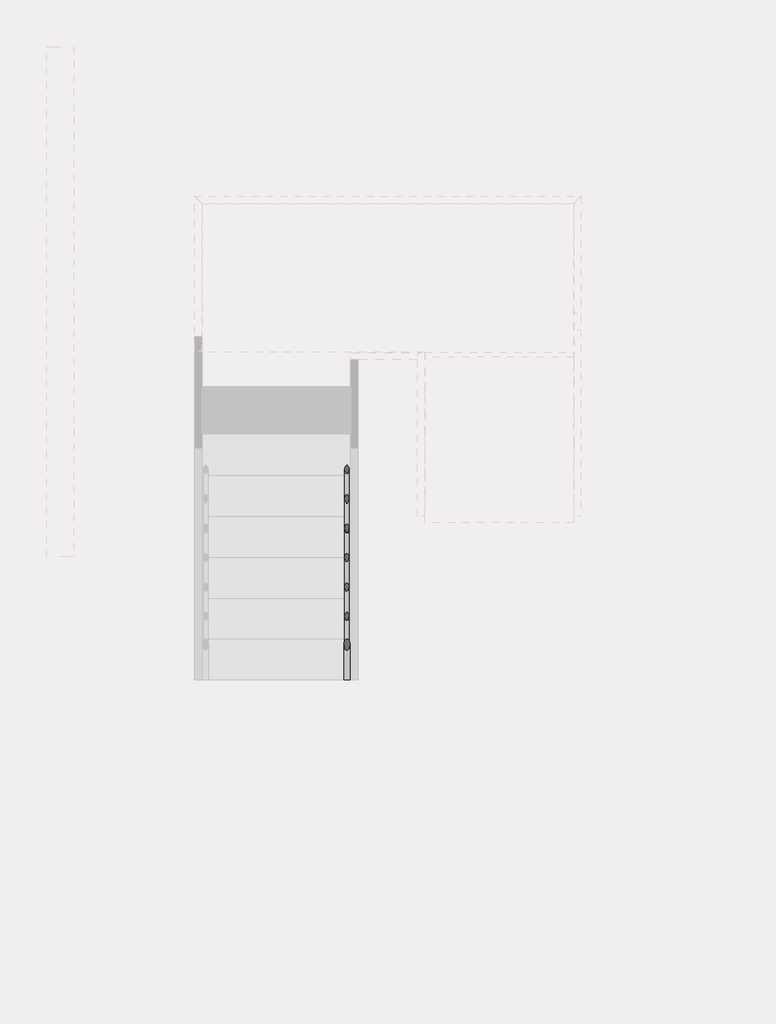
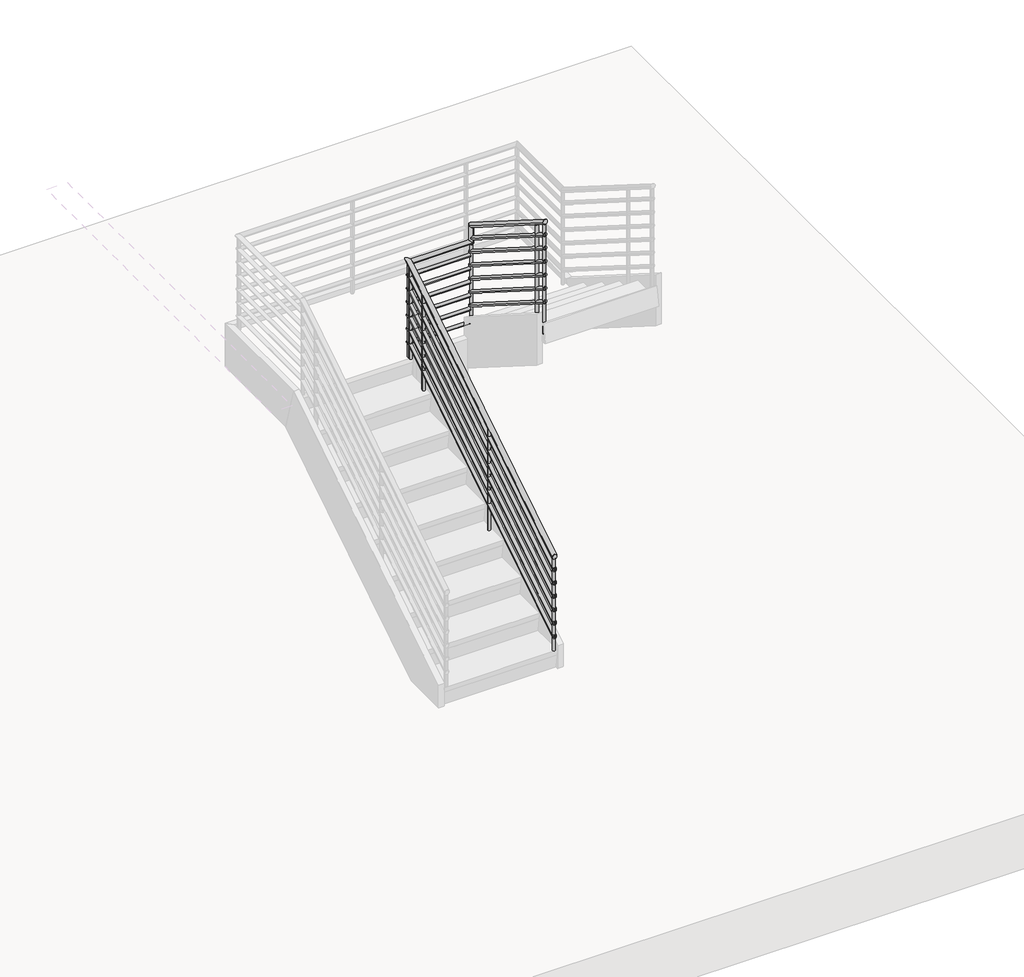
# One storey, part 2 of 6: 1 railing.
"""IFC4 building model written with IfcOpenShell, lengths in millimetres."""

from ifc_helpers import new_model, si_unit, point, frame, frame_2d, origin, place, context, project, spatial, circle_curve, ellipse_curve, trimmed, segment, composite_curve, outline, extrude, element, save
from ifc_brep_helpers import plane_surface, cylinder_surface, advanced_brep

model = new_model("IFC4")

# Units and contexts
model_context = context("Model", 3, world=origin())
ifc_project = project(units=[si_unit("LENGTHUNIT", "METRE", prefix="MILLI")], contexts=[model_context])

# Site, building, storey
site = spatial("IfcSite", under=ifc_project)
building = spatial("IfcBuilding", under=site)
storey = spatial("IfcBuildingStorey", under=building, Name="Уровень 1", Elevation=0.0)

# Railing
placement = place(None, origin())
element("IfcRailing", 1, ObjectType="Труба 900 мм", at=placement, inside=storey, context=model_context, shape_type="SolidModel", body=[
    advanced_brep(
    [(-7007.6328055, 6799.5507128, 1050.2491997), (-7047.6328055, 6799.5507128, 1050.2491997), (-7007.6328055, 9018.7372009, 2453.687295), (-7047.6328055, 9052.5440502, 2475.0671206)],
    [
        (0, 1, ellipse_curve(frame((-7027.6328055, 6799.5507128, 1050.2491997), z_axis=(0.0, -1.0, 0.0), x_axis=(0.0, 0.0, -1.0)), 23.6638438, 20.0)),
        (1, 0, ellipse_curve(frame((-7027.6328055, 6799.5507128, 1050.2491997), z_axis=(0.0, -1.0, 0.0), x_axis=(0.0, 0.0, -1.0)), 23.6638438, 20.0)),
        (2, 3, ellipse_curve(frame((-7027.6328055, 9035.6406256, 2464.3772078), z_axis=(0.7071067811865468, 0.5976263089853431, 0.3779454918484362), x_axis=(0.7071067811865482, -0.5976263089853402, -0.37794549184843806)), 28.2842712, 20.0)),
        (3, 2, ellipse_curve(frame((-7027.6328055, 9035.6406256, 2464.3772078), z_axis=(0.7071067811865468, 0.5976263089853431, 0.3779454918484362), x_axis=(0.7071067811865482, -0.5976263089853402, -0.37794549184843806)), 28.2842712, 20.0)),
        (0, 2),
        (3, 1),
    ],
    [
        plane_surface(frame((-7027.6328055, 6799.5507128, 1073.9130435), z_axis=(0.0, -1.0, 0.0), x_axis=(0.0, 0.0, 1.0))),
        plane_surface(frame((-7027.6328055, 9024.9507128, 2481.2806324), z_axis=(0.7071067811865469, 0.5976263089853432, 0.3779454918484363), x_axis=(0.7071067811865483, -0.5976263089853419, -0.37794549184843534))),
        cylinder_surface(frame((-7027.6328055, 6810.2406256, 1057.0096189), z_axis=(0.0, -0.845171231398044, -0.5344956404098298), x_axis=(-1.0, 0.0, 0.0)), 20.0),
    ],
    [
        (0, [[1, 2]]),
        (1, [[3, 4]]),
        (2, [[-1, 5, -4, 6]]),
        (2, [[-2, -6, -3, -5]]),
    ],
),
    advanced_brep(
    [(-7000.0394681, 9004.9507128, 2445.2173913), (-7033.8463173, 9044.9507128, 2445.2173913), (-6476.8328055, 9004.9507128, 2445.2173913), (-6476.8328055, 9044.9507128, 2445.2173913)],
    [
        (0, 1, ellipse_curve(frame((-7016.9428927, 9024.9507128, 2445.2173913), z_axis=(-0.7071067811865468, -0.5976263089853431, -0.3779454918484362), x_axis=(-0.7071067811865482, 0.5976263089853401, 0.3779454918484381)), 28.2842712, 20.0)),
        (1, 0, ellipse_curve(frame((-7016.9428927, 9024.9507128, 2445.2173913), z_axis=(-0.7071067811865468, -0.5976263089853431, -0.3779454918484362), x_axis=(-0.7071067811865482, 0.5976263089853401, 0.3779454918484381)), 28.2842712, 20.0)),
        (2, 3, ellipse_curve(frame((-6476.8328055, 9024.9507128, 2445.2173913), z_axis=(0.7071067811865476, 0.0, 0.7071067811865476), x_axis=(-0.7071067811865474, 0.0, 0.7071067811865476)), 28.2842712, 20.0)),
        (3, 2, ellipse_curve(frame((-6476.8328055, 9024.9507128, 2445.2173913), z_axis=(0.7071067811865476, 0.0, 0.7071067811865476), x_axis=(-0.7071067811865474, 0.0, 0.7071067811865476)), 28.2842712, 20.0)),
        (0, 2),
        (3, 1),
    ],
    [
        plane_surface(frame((-7027.6328055, 9024.9507128, 2465.2173913), z_axis=(-0.7071067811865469, -0.5976263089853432, -0.3779454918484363), x_axis=(0.7071067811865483, -0.5976263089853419, -0.37794549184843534))),
        plane_surface(frame((-6496.8328055, 9024.9507128, 2465.2173913), z_axis=(0.7071067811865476, 0.0, 0.7071067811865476), x_axis=(0.7071067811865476, 0.0, -0.7071067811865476))),
        cylinder_surface(frame((-7027.6328055, 9024.9507128, 2445.2173913), z_axis=(-1.0, 0.0, 0.0), x_axis=(0.0, 1.0, 0.0)), 20.0),
    ],
    [
        (0, [[1, 2]]),
        (1, [[3, 4]]),
        (2, [[-1, 5, -4, 6]]),
        (2, [[-2, -6, -3, -5]]),
    ],
),
    advanced_brep(
    [(-6476.8328055, 9004.9507128, 2445.2173913), (-6476.8328055, 9044.9507128, 2445.2173913), (-6476.8328055, 9004.9507128, 2588.3877274), (-6476.8328055, 9044.9507128, 2610.4189723)],
    [
        (0, 1, ellipse_curve(frame((-6476.8328055, 9024.9507128, 2445.2173913), z_axis=(-0.7071067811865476, 0.0, -0.7071067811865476), x_axis=(0.7071067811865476, 0.0, -0.7071067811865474)), 28.2842712, 20.0)),
        (1, 0, ellipse_curve(frame((-6476.8328055, 9024.9507128, 2445.2173913), z_axis=(-0.7071067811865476, 0.0, -0.7071067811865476), x_axis=(0.7071067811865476, 0.0, -0.7071067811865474)), 28.2842712, 20.0)),
        (2, 3, ellipse_curve(frame((-6476.8328055, 9024.9507128, 2599.4033499), z_axis=(0.0, -0.4824439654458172, 0.8759268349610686), x_axis=(0.0, -0.8759268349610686, -0.48244396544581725)), 22.8329573, 20.0)),
        (3, 2, ellipse_curve(frame((-6476.8328055, 9024.9507128, 2599.4033499), z_axis=(0.0, -0.4824439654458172, 0.8759268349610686), x_axis=(0.0, -0.8759268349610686, -0.48244396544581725)), 22.8329573, 20.0)),
        (0, 2),
        (3, 1),
    ],
    [
        plane_surface(frame((-6476.8328055, 9024.9507128, 2445.2173913), z_axis=(-0.7071067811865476, 0.0, -0.7071067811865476), x_axis=(0.7071067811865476, 0.0, -0.7071067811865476))),
        plane_surface(frame((-6476.8328055, 9024.9507128, 2599.4033499), z_axis=(0.0, -0.4824439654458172, 0.8759268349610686), x_axis=(1.0, 0.0, 0.0))),
        cylinder_surface(frame((-6476.8328055, 9024.9507128, 2445.2173913), z_axis=(0.0, 0.0, -1.0), x_axis=(0.0, 1.0, 0.0)), 20.0),
    ],
    [
        (0, [[1, 2]]),
        (1, [[3, 4]]),
        (2, [[-1, 5, -4, 6]]),
        (2, [[-2, -6, -3, -5]]),
    ],
),
    advanced_brep(
    [(-6496.8328055, 9024.9507128, 2599.4033499), (-6456.8328055, 9024.9507128, 2599.4033499), (-6496.8328055, 7899.5507128, 3311.1187649), (-6456.8328055, 7899.5507128, 3311.1187649)],
    [
        (0, 1, ellipse_curve(frame((-6476.8328055, 9024.9507128, 2599.4033499), z_axis=(0.0, 0.4824439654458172, -0.8759268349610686), x_axis=(0.0, 0.8759268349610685, 0.48244396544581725)), 22.8329573, 20.0)),
        (1, 0, ellipse_curve(frame((-6476.8328055, 9024.9507128, 2599.4033499), z_axis=(0.0, 0.4824439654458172, -0.8759268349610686), x_axis=(0.0, 0.8759268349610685, 0.48244396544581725)), 22.8329573, 20.0)),
        (2, 3, ellipse_curve(frame((-6476.8328055, 7899.5507128, 3311.1187649), z_axis=(0.0, -1.0, 0.0), x_axis=(0.0, 0.0, -1.0)), 23.6638438, 20.0)),
        (3, 2, ellipse_curve(frame((-6476.8328055, 7899.5507128, 3311.1187649), z_axis=(0.0, -1.0, 0.0), x_axis=(0.0, 0.0, -1.0)), 23.6638438, 20.0)),
        (0, 2),
        (3, 1),
    ],
    [
        plane_surface(frame((-6476.8328055, 9044.9507128, 2610.4189723), z_axis=(0.0, 0.4824439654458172, -0.8759268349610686), x_axis=(1.0, 0.0, 0.0))),
        plane_surface(frame((-6476.8328055, 7899.5507128, 3334.7826087), z_axis=(0.0, -1.0, 0.0), x_axis=(0.0, 0.0, -1.0))),
        cylinder_surface(frame((-6476.8328055, 9034.2608, 2593.5155477), z_axis=(0.0, 0.8451712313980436, -0.5344956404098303), x_axis=(1.0, 0.0, 0.0)), 20.0),
    ],
    [
        (0, [[1, 2]]),
        (1, [[3, 4]]),
        (2, [[-1, 5, -4, 6]]),
        (2, [[-2, -6, -3, -5]]),
    ],
),
    advanced_brep(
    [(-7042.6328055, 6799.5507128, 931.1651606), (-7012.6328055, 6799.5507128, 931.1651606), (-7042.6328055, 9003.8958025, 2325.2173913), (-7012.6328055, 9003.8958025, 2325.2173913), (-7042.6328055, 9039.9507128, 2325.2173913), (-7012.6328055, 9009.9507128, 2325.2173913), (-6491.8328055, 9039.9507128, 2325.2173913), (-6491.8328055, 9009.9507128, 2325.2173913)],
    [
        (0, 1, ellipse_curve(frame((-7027.6328055, 6799.5507128, 931.1651606), z_axis=(0.0, -1.0, 0.0), x_axis=(0.0, 0.0, -1.0)), 17.7478828, 15.0)),
        (1, 0, ellipse_curve(frame((-7027.6328055, 6799.5507128, 931.1651606), z_axis=(0.0, -1.0, 0.0), x_axis=(0.0, 0.0, -1.0)), 17.7478828, 15.0)),
        (0, 2),
        (2, 3, ellipse_curve(frame((-7027.6328055, 9003.8958025, 2325.2173913), z_axis=(0.0, -0.9605132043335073, -0.2782344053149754), x_axis=(0.0, 0.27823440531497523, -0.9605132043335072)), 15.6166515, 15.0)),
        (3, 1),
        (3, 2, ellipse_curve(frame((-7027.6328055, 9003.8958025, 2325.2173913), z_axis=(0.0, -0.9605132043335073, -0.2782344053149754), x_axis=(0.0, 0.27823440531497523, -0.9605132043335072)), 15.6166515, 15.0)),
        (2, 4),
        (4, 5, ellipse_curve(frame((-7027.6328055, 9024.9507128, 2325.2173913), z_axis=(-0.7071067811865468, -0.7071067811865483, 0.0), x_axis=(0.7071067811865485, -0.7071067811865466, 0.0)), 21.2132034, 15.0)),
        (5, 3),
        (5, 4, ellipse_curve(frame((-7027.6328055, 9024.9507128, 2325.2173913), z_axis=(-0.7071067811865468, -0.7071067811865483, 0.0), x_axis=(0.7071067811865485, -0.7071067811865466, 0.0)), 21.2132034, 15.0)),
        (6, 7, circle_curve(frame((-6491.8328055, 9024.9507128, 2325.2173913), z_axis=(1.0, 0.0, 0.0), x_axis=(0.0, -1.0, 0.0)), 15.0)),
        (7, 6, circle_curve(frame((-6491.8328055, 9024.9507128, 2325.2173913), z_axis=(1.0, 0.0, 0.0), x_axis=(0.0, -1.0, 0.0)), 15.0)),
        (4, 6),
        (7, 5),
    ],
    [
        plane_surface(frame((-7027.6328055, 6799.5507128, 948.9130435), z_axis=(0.0, -1.0, 0.0), x_axis=(0.0, 0.0, 1.0))),
        cylinder_surface(frame((-7027.6328055, 6807.5681474, 936.235475), z_axis=(0.0, -0.8451712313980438, -0.5344956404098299), x_axis=(1.0, 0.0, 0.0)), 15.0),
        cylinder_surface(frame((-7027.6328055, 8999.5507128, 2325.2173913), z_axis=(0.0, -1.0, 0.0), x_axis=(1.0, 0.0, 0.0)), 15.0),
        plane_surface(frame((-6491.8328055, 9024.9507128, 2340.2173913), z_axis=(1.0, 0.0, 0.0), x_axis=(0.0, 1.0, 0.0))),
        cylinder_surface(frame((-7027.6328055, 9024.9507128, 2325.2173913), z_axis=(-1.0, 0.0, 0.0), x_axis=(0.0, -1.0, 0.0)), 15.0),
    ],
    [
        (0, [[1, 2]]),
        (1, [[-1, 3, 4, 5]]),
        (1, [[-2, -5, 6, -3]]),
        (2, [[-4, 7, 8, 9]]),
        (2, [[-6, -9, 10, -7]]),
        (3, [[11, 12]]),
        (4, [[-8, 13, -12, 14]]),
        (4, [[-10, -14, -11, -13]]),
    ],
),
    advanced_brep(
    [(-6461.8328055, 9039.9507128, 2470.8331448), (-6491.8328055, 9039.9507128, 2470.8331448), (-6461.8328055, 7899.5507128, 3192.0347258), (-6491.8328055, 7899.5507128, 3192.0347258)],
    [
        (0, 1, ellipse_curve(frame((-6476.8328055, 9039.9507128, 2470.8331448), z_axis=(0.0, 1.0, 0.0), x_axis=(0.0, 0.0, -1.0)), 17.7478828, 15.0)),
        (1, 0, ellipse_curve(frame((-6476.8328055, 9039.9507128, 2470.8331448), z_axis=(0.0, 1.0, 0.0), x_axis=(0.0, 0.0, -1.0)), 17.7478828, 15.0)),
        (2, 3, ellipse_curve(frame((-6476.8328055, 7899.5507128, 3192.0347258), z_axis=(0.0, -1.0, 0.0), x_axis=(0.0, 0.0, -1.0)), 17.7478828, 15.0)),
        (3, 2, ellipse_curve(frame((-6476.8328055, 7899.5507128, 3192.0347258), z_axis=(0.0, -1.0, 0.0), x_axis=(0.0, 0.0, -1.0)), 17.7478828, 15.0)),
        (0, 2),
        (3, 1),
    ],
    [
        plane_surface(frame((-6476.8328055, 9039.9507128, 2488.5810277), z_axis=(0.0, 1.0, 0.0), x_axis=(0.0, 0.0, -1.0))),
        plane_surface(frame((-6476.8328055, 7899.5507128, 3209.7826087), z_axis=(0.0, -1.0, 0.0), x_axis=(0.0, 0.0, -1.0))),
        cylinder_surface(frame((-6476.8328055, 9031.9332782, 2475.9034592), z_axis=(0.0, 0.8451712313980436, -0.5344956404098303), x_axis=(-1.0, 0.0, 0.0)), 15.0),
    ],
    [
        (0, [[1, 2]]),
        (1, [[3, 4]]),
        (2, [[-1, 5, -4, 6]]),
        (2, [[-2, -6, -3, -5]]),
    ],
),
    advanced_brep(
    [(-7042.6328055, 6799.5507128, 806.1651606), (-7012.6328055, 6799.5507128, 806.1651606), (-7042.6328055, 9003.8958025, 2200.2173913), (-7012.6328055, 9003.8958025, 2200.2173913), (-7042.6328055, 9039.9507128, 2200.2173913), (-7012.6328055, 9009.9507128, 2200.2173913), (-6491.8328055, 9039.9507128, 2200.2173913), (-6491.8328055, 9009.9507128, 2200.2173913)],
    [
        (0, 1, ellipse_curve(frame((-7027.6328055, 6799.5507128, 806.1651606), z_axis=(0.0, -1.0, 0.0), x_axis=(0.0, 0.0, -1.0)), 17.7478828, 15.0)),
        (1, 0, ellipse_curve(frame((-7027.6328055, 6799.5507128, 806.1651606), z_axis=(0.0, -1.0, 0.0), x_axis=(0.0, 0.0, -1.0)), 17.7478828, 15.0)),
        (0, 2),
        (2, 3, ellipse_curve(frame((-7027.6328055, 9003.8958025, 2200.2173913), z_axis=(0.0, -0.9605132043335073, -0.2782344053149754), x_axis=(0.0, 0.27823440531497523, -0.9605132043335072)), 15.6166515, 15.0)),
        (3, 1),
        (3, 2, ellipse_curve(frame((-7027.6328055, 9003.8958025, 2200.2173913), z_axis=(0.0, -0.9605132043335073, -0.2782344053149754), x_axis=(0.0, 0.27823440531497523, -0.9605132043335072)), 15.6166515, 15.0)),
        (2, 4),
        (4, 5, ellipse_curve(frame((-7027.6328055, 9024.9507128, 2200.2173913), z_axis=(-0.7071067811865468, -0.7071067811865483, 0.0), x_axis=(0.7071067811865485, -0.7071067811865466, 0.0)), 21.2132034, 15.0)),
        (5, 3),
        (5, 4, ellipse_curve(frame((-7027.6328055, 9024.9507128, 2200.2173913), z_axis=(-0.7071067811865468, -0.7071067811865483, 0.0), x_axis=(0.7071067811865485, -0.7071067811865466, 0.0)), 21.2132034, 15.0)),
        (6, 7, circle_curve(frame((-6491.8328055, 9024.9507128, 2200.2173913), z_axis=(1.0, 0.0, 0.0), x_axis=(0.0, -1.0, 0.0)), 15.0)),
        (7, 6, circle_curve(frame((-6491.8328055, 9024.9507128, 2200.2173913), z_axis=(1.0, 0.0, 0.0), x_axis=(0.0, -1.0, 0.0)), 15.0)),
        (4, 6),
        (7, 5),
    ],
    [
        plane_surface(frame((-7027.6328055, 6799.5507128, 823.9130435), z_axis=(0.0, -1.0, 0.0), x_axis=(0.0, 0.0, 1.0))),
        cylinder_surface(frame((-7027.6328055, 6807.5681474, 811.235475), z_axis=(0.0, -0.8451712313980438, -0.5344956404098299), x_axis=(1.0, 0.0, 0.0)), 15.0),
        cylinder_surface(frame((-7027.6328055, 8999.5507128, 2200.2173913), z_axis=(0.0, -1.0, 0.0), x_axis=(1.0, 0.0, 0.0)), 15.0),
        plane_surface(frame((-6491.8328055, 9024.9507128, 2215.2173913), z_axis=(1.0, 0.0, 0.0), x_axis=(0.0, 1.0, 0.0))),
        cylinder_surface(frame((-7027.6328055, 9024.9507128, 2200.2173913), z_axis=(-1.0, 0.0, 0.0), x_axis=(0.0, -1.0, 0.0)), 15.0),
    ],
    [
        (0, [[1, 2]]),
        (1, [[-1, 3, 4, 5]]),
        (1, [[-2, -5, 6, -3]]),
        (2, [[-4, 7, 8, 9]]),
        (2, [[-6, -9, 10, -7]]),
        (3, [[11, 12]]),
        (4, [[-8, 13, -12, 14]]),
        (4, [[-10, -14, -11, -13]]),
    ],
),
    advanced_brep(
    [(-6461.8328055, 9039.9507128, 2345.8331448), (-6491.8328055, 9039.9507128, 2345.8331448), (-6461.8328055, 7899.5507128, 3067.0347258), (-6491.8328055, 7899.5507128, 3067.0347258)],
    [
        (0, 1, ellipse_curve(frame((-6476.8328055, 9039.9507128, 2345.8331448), z_axis=(0.0, 1.0, 0.0), x_axis=(0.0, 0.0, -1.0)), 17.7478828, 15.0)),
        (1, 0, ellipse_curve(frame((-6476.8328055, 9039.9507128, 2345.8331448), z_axis=(0.0, 1.0, 0.0), x_axis=(0.0, 0.0, -1.0)), 17.7478828, 15.0)),
        (2, 3, ellipse_curve(frame((-6476.8328055, 7899.5507128, 3067.0347258), z_axis=(0.0, -1.0, 0.0), x_axis=(0.0, 0.0, -1.0)), 17.7478828, 15.0)),
        (3, 2, ellipse_curve(frame((-6476.8328055, 7899.5507128, 3067.0347258), z_axis=(0.0, -1.0, 0.0), x_axis=(0.0, 0.0, -1.0)), 17.7478828, 15.0)),
        (0, 2),
        (3, 1),
    ],
    [
        plane_surface(frame((-6476.8328055, 9039.9507128, 2363.5810277), z_axis=(0.0, 1.0, 0.0), x_axis=(0.0, 0.0, -1.0))),
        plane_surface(frame((-6476.8328055, 7899.5507128, 3084.7826087), z_axis=(0.0, -1.0, 0.0), x_axis=(0.0, 0.0, -1.0))),
        cylinder_surface(frame((-6476.8328055, 9031.9332782, 2350.9034592), z_axis=(0.0, 0.8451712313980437, -0.5344956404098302), x_axis=(-1.0, 0.0, 0.0)), 15.0),
    ],
    [
        (0, [[1, 2]]),
        (1, [[3, 4]]),
        (2, [[-1, 5, -4, 6]]),
        (2, [[-2, -6, -3, -5]]),
    ],
),
    advanced_brep(
    [(-7042.6328055, 6799.5507128, 681.1651606), (-7012.6328055, 6799.5507128, 681.1651606), (-7042.6328055, 9003.8958025, 2075.2173913), (-7012.6328055, 9003.8958025, 2075.2173913), (-7042.6328055, 9039.9507128, 2075.2173913), (-7012.6328055, 9009.9507128, 2075.2173913), (-6491.8328055, 9039.9507128, 2075.2173913), (-6491.8328055, 9009.9507128, 2075.2173913)],
    [
        (0, 1, ellipse_curve(frame((-7027.6328055, 6799.5507128, 681.1651606), z_axis=(0.0, -1.0, 0.0), x_axis=(0.0, 0.0, -1.0)), 17.7478828, 15.0)),
        (1, 0, ellipse_curve(frame((-7027.6328055, 6799.5507128, 681.1651606), z_axis=(0.0, -1.0, 0.0), x_axis=(0.0, 0.0, -1.0)), 17.7478828, 15.0)),
        (0, 2),
        (2, 3, ellipse_curve(frame((-7027.6328055, 9003.8958025, 2075.2173913), z_axis=(0.0, -0.9605132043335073, -0.2782344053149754), x_axis=(0.0, 0.27823440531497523, -0.9605132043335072)), 15.6166515, 15.0)),
        (3, 1),
        (3, 2, ellipse_curve(frame((-7027.6328055, 9003.8958025, 2075.2173913), z_axis=(0.0, -0.9605132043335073, -0.2782344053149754), x_axis=(0.0, 0.27823440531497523, -0.9605132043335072)), 15.6166515, 15.0)),
        (2, 4),
        (4, 5, ellipse_curve(frame((-7027.6328055, 9024.9507128, 2075.2173913), z_axis=(-0.7071067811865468, -0.7071067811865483, 0.0), x_axis=(0.7071067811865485, -0.7071067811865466, 0.0)), 21.2132034, 15.0)),
        (5, 3),
        (5, 4, ellipse_curve(frame((-7027.6328055, 9024.9507128, 2075.2173913), z_axis=(-0.7071067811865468, -0.7071067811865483, 0.0), x_axis=(0.7071067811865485, -0.7071067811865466, 0.0)), 21.2132034, 15.0)),
        (6, 7, circle_curve(frame((-6491.8328055, 9024.9507128, 2075.2173913), z_axis=(1.0, 0.0, 0.0), x_axis=(0.0, -1.0, 0.0)), 15.0)),
        (7, 6, circle_curve(frame((-6491.8328055, 9024.9507128, 2075.2173913), z_axis=(1.0, 0.0, 0.0), x_axis=(0.0, -1.0, 0.0)), 15.0)),
        (4, 6),
        (7, 5),
    ],
    [
        plane_surface(frame((-7027.6328055, 6799.5507128, 698.9130435), z_axis=(0.0, -1.0, 0.0), x_axis=(0.0, 0.0, 1.0))),
        cylinder_surface(frame((-7027.6328055, 6807.5681474, 686.235475), z_axis=(0.0, -0.8451712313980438, -0.5344956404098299), x_axis=(1.0, 0.0, 0.0)), 15.0),
        cylinder_surface(frame((-7027.6328055, 8999.5507128, 2075.2173913), z_axis=(0.0, -1.0, 0.0), x_axis=(1.0, 0.0, 0.0)), 15.0),
        plane_surface(frame((-6491.8328055, 9024.9507128, 2090.2173913), z_axis=(1.0, 0.0, 0.0), x_axis=(0.0, 1.0, 0.0))),
        cylinder_surface(frame((-7027.6328055, 9024.9507128, 2075.2173913), z_axis=(-1.0, 0.0, 0.0), x_axis=(0.0, -1.0, 0.0)), 15.0),
    ],
    [
        (0, [[1, 2]]),
        (1, [[-1, 3, 4, 5]]),
        (1, [[-2, -5, 6, -3]]),
        (2, [[-4, 7, 8, 9]]),
        (2, [[-6, -9, 10, -7]]),
        (3, [[11, 12]]),
        (4, [[-8, 13, -12, 14]]),
        (4, [[-10, -14, -11, -13]]),
    ],
),
    advanced_brep(
    [(-6461.8328055, 9039.9507128, 2220.8331448), (-6491.8328055, 9039.9507128, 2220.8331448), (-6461.8328055, 7899.5507128, 2942.0347258), (-6491.8328055, 7899.5507128, 2942.0347258)],
    [
        (0, 1, ellipse_curve(frame((-6476.8328055, 9039.9507128, 2220.8331448), z_axis=(0.0, 1.0, 0.0), x_axis=(0.0, 0.0, -1.0)), 17.7478828, 15.0)),
        (1, 0, ellipse_curve(frame((-6476.8328055, 9039.9507128, 2220.8331448), z_axis=(0.0, 1.0, 0.0), x_axis=(0.0, 0.0, -1.0)), 17.7478828, 15.0)),
        (2, 3, ellipse_curve(frame((-6476.8328055, 7899.5507128, 2942.0347258), z_axis=(0.0, -1.0, 0.0), x_axis=(0.0, 0.0, -1.0)), 17.7478828, 15.0)),
        (3, 2, ellipse_curve(frame((-6476.8328055, 7899.5507128, 2942.0347258), z_axis=(0.0, -1.0, 0.0), x_axis=(0.0, 0.0, -1.0)), 17.7478828, 15.0)),
        (0, 2),
        (3, 1),
    ],
    [
        plane_surface(frame((-6476.8328055, 9039.9507128, 2238.5810277), z_axis=(0.0, 1.0, 0.0), x_axis=(0.0, 0.0, -1.0))),
        plane_surface(frame((-6476.8328055, 7899.5507128, 2959.7826087), z_axis=(0.0, -1.0, 0.0), x_axis=(0.0, 0.0, -1.0))),
        cylinder_surface(frame((-6476.8328055, 9031.9332782, 2225.9034592), z_axis=(0.0, 0.8451712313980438, -0.5344956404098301), x_axis=(-1.0, 0.0, 0.0)), 15.0),
    ],
    [
        (0, [[1, 2]]),
        (1, [[3, 4]]),
        (2, [[-1, 5, -4, 6]]),
        (2, [[-2, -6, -3, -5]]),
    ],
),
    advanced_brep(
    [(-7042.6328055, 6799.5507128, 556.1651606), (-7012.6328055, 6799.5507128, 556.1651606), (-7042.6328055, 9003.8958025, 1950.2173913), (-7012.6328055, 9003.8958025, 1950.2173913), (-7042.6328055, 9039.9507128, 1950.2173913), (-7012.6328055, 9009.9507128, 1950.2173913), (-6491.8328055, 9039.9507128, 1950.2173913), (-6491.8328055, 9009.9507128, 1950.2173913)],
    [
        (0, 1, ellipse_curve(frame((-7027.6328055, 6799.5507128, 556.1651606), z_axis=(0.0, -1.0, 0.0), x_axis=(0.0, 0.0, -1.0)), 17.7478828, 15.0)),
        (1, 0, ellipse_curve(frame((-7027.6328055, 6799.5507128, 556.1651606), z_axis=(0.0, -1.0, 0.0), x_axis=(0.0, 0.0, -1.0)), 17.7478828, 15.0)),
        (0, 2),
        (2, 3, ellipse_curve(frame((-7027.6328055, 9003.8958025, 1950.2173913), z_axis=(0.0, -0.9605132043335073, -0.2782344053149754), x_axis=(0.0, 0.27823440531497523, -0.9605132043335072)), 15.6166515, 15.0)),
        (3, 1),
        (3, 2, ellipse_curve(frame((-7027.6328055, 9003.8958025, 1950.2173913), z_axis=(0.0, -0.9605132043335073, -0.2782344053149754), x_axis=(0.0, 0.27823440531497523, -0.9605132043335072)), 15.6166515, 15.0)),
        (2, 4),
        (4, 5, ellipse_curve(frame((-7027.6328055, 9024.9507128, 1950.2173913), z_axis=(-0.7071067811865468, -0.7071067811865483, 0.0), x_axis=(0.7071067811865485, -0.7071067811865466, 0.0)), 21.2132034, 15.0)),
        (5, 3),
        (5, 4, ellipse_curve(frame((-7027.6328055, 9024.9507128, 1950.2173913), z_axis=(-0.7071067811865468, -0.7071067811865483, 0.0), x_axis=(0.7071067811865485, -0.7071067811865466, 0.0)), 21.2132034, 15.0)),
        (6, 7, circle_curve(frame((-6491.8328055, 9024.9507128, 1950.2173913), z_axis=(1.0, 0.0, 0.0), x_axis=(0.0, -1.0, 0.0)), 15.0)),
        (7, 6, circle_curve(frame((-6491.8328055, 9024.9507128, 1950.2173913), z_axis=(1.0, 0.0, 0.0), x_axis=(0.0, -1.0, 0.0)), 15.0)),
        (4, 6),
        (7, 5),
    ],
    [
        plane_surface(frame((-7027.6328055, 6799.5507128, 573.9130435), z_axis=(0.0, -1.0, 0.0), x_axis=(0.0, 0.0, 1.0))),
        cylinder_surface(frame((-7027.6328055, 6807.5681474, 561.235475), z_axis=(0.0, -0.8451712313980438, -0.5344956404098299), x_axis=(1.0, 0.0, 0.0)), 15.0),
        cylinder_surface(frame((-7027.6328055, 8999.5507128, 1950.2173913), z_axis=(0.0, -1.0, 0.0), x_axis=(1.0, 0.0, 0.0)), 15.0),
        plane_surface(frame((-6491.8328055, 9024.9507128, 1965.2173913), z_axis=(1.0, 0.0, 0.0), x_axis=(0.0, 1.0, 0.0))),
        cylinder_surface(frame((-7027.6328055, 9024.9507128, 1950.2173913), z_axis=(-1.0, 0.0, 0.0), x_axis=(0.0, -1.0, 0.0)), 15.0),
    ],
    [
        (0, [[1, 2]]),
        (1, [[-1, 3, 4, 5]]),
        (1, [[-2, -5, 6, -3]]),
        (2, [[-4, 7, 8, 9]]),
        (2, [[-6, -9, 10, -7]]),
        (3, [[11, 12]]),
        (4, [[-8, 13, -12, 14]]),
        (4, [[-10, -14, -11, -13]]),
    ],
),
    advanced_brep(
    [(-6461.8328055, 9039.9507128, 2095.8331448), (-6491.8328055, 9039.9507128, 2095.8331448), (-6461.8328055, 7899.5507128, 2817.0347258), (-6491.8328055, 7899.5507128, 2817.0347258)],
    [
        (0, 1, ellipse_curve(frame((-6476.8328055, 9039.9507128, 2095.8331448), z_axis=(0.0, 1.0, 0.0), x_axis=(0.0, 0.0, -1.0)), 17.7478828, 15.0)),
        (1, 0, ellipse_curve(frame((-6476.8328055, 9039.9507128, 2095.8331448), z_axis=(0.0, 1.0, 0.0), x_axis=(0.0, 0.0, -1.0)), 17.7478828, 15.0)),
        (2, 3, ellipse_curve(frame((-6476.8328055, 7899.5507128, 2817.0347258), z_axis=(0.0, -1.0, 0.0), x_axis=(0.0, 0.0, -1.0)), 17.7478828, 15.0)),
        (3, 2, ellipse_curve(frame((-6476.8328055, 7899.5507128, 2817.0347258), z_axis=(0.0, -1.0, 0.0), x_axis=(0.0, 0.0, -1.0)), 17.7478828, 15.0)),
        (0, 2),
        (3, 1),
    ],
    [
        plane_surface(frame((-6476.8328055, 9039.9507128, 2113.5810277), z_axis=(0.0, 1.0, 0.0), x_axis=(0.0, 0.0, -1.0))),
        plane_surface(frame((-6476.8328055, 7899.5507128, 2834.7826087), z_axis=(0.0, -1.0, 0.0), x_axis=(0.0, 0.0, -1.0))),
        cylinder_surface(frame((-6476.8328055, 9031.9332782, 2100.9034592), z_axis=(0.0, 0.8451712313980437, -0.5344956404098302), x_axis=(-1.0, 0.0, 0.0)), 15.0),
    ],
    [
        (0, [[1, 2]]),
        (1, [[3, 4]]),
        (2, [[-1, 5, -4, 6]]),
        (2, [[-2, -6, -3, -5]]),
    ],
),
    advanced_brep(
    [(-7042.6328055, 6799.5507128, 431.1651606), (-7012.6328055, 6799.5507128, 431.1651606), (-7042.6328055, 9003.8958025, 1825.2173913), (-7012.6328055, 9003.8958025, 1825.2173913), (-7042.6328055, 9039.9507128, 1825.2173913), (-7012.6328055, 9009.9507128, 1825.2173913), (-6491.8328055, 9039.9507128, 1825.2173913), (-6491.8328055, 9009.9507128, 1825.2173913)],
    [
        (0, 1, ellipse_curve(frame((-7027.6328055, 6799.5507128, 431.1651606), z_axis=(0.0, -1.0, 0.0), x_axis=(0.0, 0.0, -1.0)), 17.7478828, 15.0)),
        (1, 0, ellipse_curve(frame((-7027.6328055, 6799.5507128, 431.1651606), z_axis=(0.0, -1.0, 0.0), x_axis=(0.0, 0.0, -1.0)), 17.7478828, 15.0)),
        (0, 2),
        (2, 3, ellipse_curve(frame((-7027.6328055, 9003.8958025, 1825.2173913), z_axis=(0.0, -0.9605132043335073, -0.2782344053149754), x_axis=(0.0, 0.27823440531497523, -0.9605132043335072)), 15.6166515, 15.0)),
        (3, 1),
        (3, 2, ellipse_curve(frame((-7027.6328055, 9003.8958025, 1825.2173913), z_axis=(0.0, -0.9605132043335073, -0.2782344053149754), x_axis=(0.0, 0.27823440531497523, -0.9605132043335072)), 15.6166515, 15.0)),
        (2, 4),
        (4, 5, ellipse_curve(frame((-7027.6328055, 9024.9507128, 1825.2173913), z_axis=(-0.7071067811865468, -0.7071067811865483, 0.0), x_axis=(0.7071067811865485, -0.7071067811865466, 0.0)), 21.2132034, 15.0)),
        (5, 3),
        (5, 4, ellipse_curve(frame((-7027.6328055, 9024.9507128, 1825.2173913), z_axis=(-0.7071067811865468, -0.7071067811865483, 0.0), x_axis=(0.7071067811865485, -0.7071067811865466, 0.0)), 21.2132034, 15.0)),
        (6, 7, circle_curve(frame((-6491.8328055, 9024.9507128, 1825.2173913), z_axis=(1.0, 0.0, 0.0), x_axis=(0.0, -1.0, 0.0)), 15.0)),
        (7, 6, circle_curve(frame((-6491.8328055, 9024.9507128, 1825.2173913), z_axis=(1.0, 0.0, 0.0), x_axis=(0.0, -1.0, 0.0)), 15.0)),
        (4, 6),
        (7, 5),
    ],
    [
        plane_surface(frame((-7027.6328055, 6799.5507128, 448.9130435), z_axis=(0.0, -1.0, 0.0), x_axis=(0.0, 0.0, 1.0))),
        cylinder_surface(frame((-7027.6328055, 6807.5681474, 436.235475), z_axis=(0.0, -0.8451712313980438, -0.5344956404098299), x_axis=(1.0, 0.0, 0.0)), 15.0),
        cylinder_surface(frame((-7027.6328055, 8999.5507128, 1825.2173913), z_axis=(0.0, -1.0, 0.0), x_axis=(1.0, 0.0, 0.0)), 15.0),
        plane_surface(frame((-6491.8328055, 9024.9507128, 1840.2173913), z_axis=(1.0, 0.0, 0.0), x_axis=(0.0, 1.0, 0.0))),
        cylinder_surface(frame((-7027.6328055, 9024.9507128, 1825.2173913), z_axis=(-1.0, 0.0, 0.0), x_axis=(0.0, -1.0, 0.0)), 15.0),
    ],
    [
        (0, [[1, 2]]),
        (1, [[-1, 3, 4, 5]]),
        (1, [[-2, -5, 6, -3]]),
        (2, [[-4, 7, 8, 9]]),
        (2, [[-6, -9, 10, -7]]),
        (3, [[11, 12]]),
        (4, [[-8, 13, -12, 14]]),
        (4, [[-10, -14, -11, -13]]),
    ],
),
    advanced_brep(
    [(-6461.8328055, 9039.9507128, 1970.8331448), (-6491.8328055, 9039.9507128, 1970.8331448), (-6461.8328055, 7899.5507128, 2692.0347258), (-6491.8328055, 7899.5507128, 2692.0347258)],
    [
        (0, 1, ellipse_curve(frame((-6476.8328055, 9039.9507128, 1970.8331448), z_axis=(0.0, 1.0, 0.0), x_axis=(0.0, 0.0, -1.0)), 17.7478828, 15.0)),
        (1, 0, ellipse_curve(frame((-6476.8328055, 9039.9507128, 1970.8331448), z_axis=(0.0, 1.0, 0.0), x_axis=(0.0, 0.0, -1.0)), 17.7478828, 15.0)),
        (2, 3, ellipse_curve(frame((-6476.8328055, 7899.5507128, 2692.0347258), z_axis=(0.0, -1.0, 0.0), x_axis=(0.0, 0.0, -1.0)), 17.7478828, 15.0)),
        (3, 2, ellipse_curve(frame((-6476.8328055, 7899.5507128, 2692.0347258), z_axis=(0.0, -1.0, 0.0), x_axis=(0.0, 0.0, -1.0)), 17.7478828, 15.0)),
        (0, 2),
        (3, 1),
    ],
    [
        plane_surface(frame((-6476.8328055, 9039.9507128, 1988.5810277), z_axis=(0.0, 1.0, 0.0), x_axis=(0.0, 0.0, -1.0))),
        plane_surface(frame((-6476.8328055, 7899.5507128, 2709.7826087), z_axis=(0.0, -1.0, 0.0), x_axis=(0.0, 0.0, -1.0))),
        cylinder_surface(frame((-6476.8328055, 9031.9332782, 1975.9034592), z_axis=(0.0, 0.8451712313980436, -0.5344956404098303), x_axis=(-1.0, 0.0, 0.0)), 15.0),
    ],
    [
        (0, [[1, 2]]),
        (1, [[3, 4]]),
        (2, [[-1, 5, -4, 6]]),
        (2, [[-2, -6, -3, -5]]),
    ],
),
    advanced_brep(
    [(-7042.6328055, 6799.5507128, 306.1651606), (-7012.6328055, 6799.5507128, 306.1651606), (-7042.6328055, 9003.8958025, 1700.2173913), (-7012.6328055, 9003.8958025, 1700.2173913), (-7042.6328055, 9039.9507128, 1700.2173913), (-7012.6328055, 9009.9507128, 1700.2173913), (-6491.8328055, 9039.9507128, 1700.2173913), (-6491.8328055, 9009.9507128, 1700.2173913)],
    [
        (0, 1, ellipse_curve(frame((-7027.6328055, 6799.5507128, 306.1651606), z_axis=(0.0, -1.0, 0.0), x_axis=(0.0, 0.0, -1.0)), 17.7478828, 15.0)),
        (1, 0, ellipse_curve(frame((-7027.6328055, 6799.5507128, 306.1651606), z_axis=(0.0, -1.0, 0.0), x_axis=(0.0, 0.0, -1.0)), 17.7478828, 15.0)),
        (0, 2),
        (2, 3, ellipse_curve(frame((-7027.6328055, 9003.8958025, 1700.2173913), z_axis=(0.0, -0.9605132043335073, -0.2782344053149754), x_axis=(0.0, 0.27823440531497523, -0.9605132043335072)), 15.6166515, 15.0)),
        (3, 1),
        (3, 2, ellipse_curve(frame((-7027.6328055, 9003.8958025, 1700.2173913), z_axis=(0.0, -0.9605132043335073, -0.2782344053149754), x_axis=(0.0, 0.27823440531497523, -0.9605132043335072)), 15.6166515, 15.0)),
        (2, 4),
        (4, 5, ellipse_curve(frame((-7027.6328055, 9024.9507128, 1700.2173913), z_axis=(-0.7071067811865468, -0.7071067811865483, 0.0), x_axis=(0.7071067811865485, -0.7071067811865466, 0.0)), 21.2132034, 15.0)),
        (5, 3),
        (5, 4, ellipse_curve(frame((-7027.6328055, 9024.9507128, 1700.2173913), z_axis=(-0.7071067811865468, -0.7071067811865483, 0.0), x_axis=(0.7071067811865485, -0.7071067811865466, 0.0)), 21.2132034, 15.0)),
        (6, 7, circle_curve(frame((-6491.8328055, 9024.9507128, 1700.2173913), z_axis=(1.0, 0.0, 0.0), x_axis=(0.0, -1.0, 0.0)), 15.0)),
        (7, 6, circle_curve(frame((-6491.8328055, 9024.9507128, 1700.2173913), z_axis=(1.0, 0.0, 0.0), x_axis=(0.0, -1.0, 0.0)), 15.0)),
        (4, 6),
        (7, 5),
    ],
    [
        plane_surface(frame((-7027.6328055, 6799.5507128, 323.9130435), z_axis=(0.0, -1.0, 0.0), x_axis=(0.0, 0.0, 1.0))),
        cylinder_surface(frame((-7027.6328055, 6807.5681474, 311.235475), z_axis=(0.0, -0.8451712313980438, -0.5344956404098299), x_axis=(1.0, 0.0, 0.0)), 15.0),
        cylinder_surface(frame((-7027.6328055, 8999.5507128, 1700.2173913), z_axis=(0.0, -1.0, 0.0), x_axis=(1.0, 0.0, 0.0)), 15.0),
        plane_surface(frame((-6491.8328055, 9024.9507128, 1715.2173913), z_axis=(1.0, 0.0, 0.0), x_axis=(0.0, 1.0, 0.0))),
        cylinder_surface(frame((-7027.6328055, 9024.9507128, 1700.2173913), z_axis=(-1.0, 0.0, 0.0), x_axis=(0.0, -1.0, 0.0)), 15.0),
    ],
    [
        (0, [[1, 2]]),
        (1, [[-1, 3, 4, 5]]),
        (1, [[-2, -5, 6, -3]]),
        (2, [[-4, 7, 8, 9]]),
        (2, [[-6, -9, 10, -7]]),
        (3, [[11, 12]]),
        (4, [[-8, 13, -12, 14]]),
        (4, [[-10, -14, -11, -13]]),
    ],
),
    advanced_brep(
    [(-6461.8328055, 9039.9507128, 1845.8331448), (-6491.8328055, 9039.9507128, 1845.8331448), (-6461.8328055, 7899.5507128, 2567.0347258), (-6491.8328055, 7899.5507128, 2567.0347258)],
    [
        (0, 1, ellipse_curve(frame((-6476.8328055, 9039.9507128, 1845.8331448), z_axis=(0.0, 1.0, 0.0), x_axis=(0.0, 0.0, -1.0)), 17.7478828, 15.0)),
        (1, 0, ellipse_curve(frame((-6476.8328055, 9039.9507128, 1845.8331448), z_axis=(0.0, 1.0, 0.0), x_axis=(0.0, 0.0, -1.0)), 17.7478828, 15.0)),
        (2, 3, ellipse_curve(frame((-6476.8328055, 7899.5507128, 2567.0347258), z_axis=(0.0, -1.0, 0.0), x_axis=(0.0, 0.0, -1.0)), 17.7478828, 15.0)),
        (3, 2, ellipse_curve(frame((-6476.8328055, 7899.5507128, 2567.0347258), z_axis=(0.0, -1.0, 0.0), x_axis=(0.0, 0.0, -1.0)), 17.7478828, 15.0)),
        (0, 2),
        (3, 1),
    ],
    [
        plane_surface(frame((-6476.8328055, 9039.9507128, 1863.5810277), z_axis=(0.0, 1.0, 0.0), x_axis=(0.0, 0.0, -1.0))),
        plane_surface(frame((-6476.8328055, 7899.5507128, 2584.7826087), z_axis=(0.0, -1.0, 0.0), x_axis=(0.0, 0.0, -1.0))),
        cylinder_surface(frame((-6476.8328055, 9031.9332782, 1850.9034592), z_axis=(0.0, 0.8451712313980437, -0.5344956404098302), x_axis=(-1.0, 0.0, 0.0)), 15.0),
    ],
    [
        (0, [[1, 2]]),
        (1, [[3, 4]]),
        (2, [[-1, 5, -4, 6]]),
        (2, [[-2, -6, -3, -5]]),
    ],
),
    advanced_brep(
    [(-6489.3328055, 8024.9507128, 3208.1505733), (-6489.3328055, 8024.9507128, 2260.8695652), (-6464.3328055, 8024.9507128, 2260.8695652), (-6464.3328055, 8024.9507128, 3208.1505733)],
    [
        (0, 1),
        (1, 2, circle_curve(frame((-6476.8328055, 8024.9507128, 2260.8695652), z_axis=(0.0, 0.0, 1.0), x_axis=(1.0, 0.0, 0.0)), 12.5)),
        (2, 3),
        (3, 0, ellipse_curve(frame((-6476.8328055, 8024.9507128, 3208.1505733), z_axis=(0.0, -0.5344956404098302, -0.8451712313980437), x_axis=(0.0, -0.8451712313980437, 0.53449564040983)), 14.7899024, 12.5)),
        (0, 3, ellipse_curve(frame((-6476.8328055, 8024.9507128, 3208.1505733), z_axis=(0.0, -0.5344956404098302, -0.8451712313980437), x_axis=(0.0, -0.8451712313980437, 0.53449564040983)), 14.7899024, 12.5)),
        (2, 1, circle_curve(frame((-6476.8328055, 8024.9507128, 2260.8695652), z_axis=(0.0, 0.0, 1.0), x_axis=(1.0, 0.0, 0.0)), 12.5)),
    ],
    [
        cylinder_surface(frame((-6476.8328055, 8024.9507128, 2160.8695652), z_axis=(0.0, 0.0, 1.0), x_axis=(1.0, 0.0, 0.0)), 12.5),
        plane_surface(frame((-6451.8328055, 7999.9507128, 3223.96085), z_axis=(0.0, 0.5344956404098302, 0.8451712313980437), x_axis=(-1.0, 0.0, 0.0))),
        plane_surface(frame((-6451.8328055, 8049.9507128, 2260.8695652), z_axis=(0.0, 0.0, -1.0), x_axis=(-1.0, 0.0, 0.0))),
    ],
    [
        (0, [[1, 2, 3, 4]]),
        (0, [[-1, 5, -3, 6]]),
        (1, [[-4, -5]]),
        (2, [[-2, -6]]),
    ],
),
    advanced_brep(
    [(-7015.1328055, 8799.5507128, 2291.4074903), (-7015.1328055, 8799.5507128, 1391.3043478), (-7040.1328055, 8799.5507128, 1391.3043478), (-7040.1328055, 8799.5507128, 2291.4074903)],
    [
        (0, 1),
        (1, 2, circle_curve(frame((-7027.6328055, 8799.5507128, 1391.3043478), z_axis=(0.0, 0.0, 1.0), x_axis=(-1.0, 0.0, 0.0)), 12.5)),
        (2, 3),
        (3, 0, ellipse_curve(frame((-7027.6328055, 8799.5507128, 2291.4074903), z_axis=(0.0, 0.5344956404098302, -0.8451712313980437), x_axis=(0.0, 0.8451712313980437, 0.53449564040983)), 14.7899024, 12.5)),
        (0, 3, ellipse_curve(frame((-7027.6328055, 8799.5507128, 2291.4074903), z_axis=(0.0, 0.5344956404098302, -0.8451712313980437), x_axis=(0.0, 0.8451712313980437, 0.53449564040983)), 14.7899024, 12.5)),
        (2, 1, circle_curve(frame((-7027.6328055, 8799.5507128, 1391.3043478), z_axis=(0.0, 0.0, 1.0), x_axis=(-1.0, 0.0, 0.0)), 12.5)),
    ],
    [
        cylinder_surface(frame((-7027.6328055, 8799.5507128, 1291.3043478), z_axis=(0.0, 0.0, 1.0), x_axis=(-1.0, 0.0, 0.0)), 12.5),
        plane_surface(frame((-7052.6328055, 8824.5507128, 2307.217767), z_axis=(0.0, -0.5344956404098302, 0.8451712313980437), x_axis=(1.0, 0.0, 0.0))),
        plane_surface(frame((-7052.6328055, 8774.5507128, 1391.3043478), z_axis=(0.0, 0.0, -1.0), x_axis=(1.0, 0.0, 0.0))),
    ],
    [
        (0, [[1, 2, 3, 4]]),
        (0, [[-1, 5, -3, 6]]),
        (1, [[-4, -5]]),
        (2, [[-2, -6]]),
    ],
),
    advanced_brep(
    [(-7015.1328055, 7799.5507128, 1658.9964231), (-7015.1328055, 7799.5507128, 695.6521739), (-7040.1328055, 7799.5507128, 695.6521739), (-7040.1328055, 7799.5507128, 1658.9964231)],
    [
        (0, 1),
        (1, 2, circle_curve(frame((-7027.6328055, 7799.5507128, 695.6521739), z_axis=(0.0, 0.0, 1.0), x_axis=(-1.0, 0.0, 0.0)), 12.5)),
        (2, 3),
        (3, 0, ellipse_curve(frame((-7027.6328055, 7799.5507128, 1658.9964231), z_axis=(0.0, 0.5344956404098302, -0.8451712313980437), x_axis=(0.0, 0.8451712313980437, 0.53449564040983)), 14.7899024, 12.5)),
        (0, 3, ellipse_curve(frame((-7027.6328055, 7799.5507128, 1658.9964231), z_axis=(0.0, 0.5344956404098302, -0.8451712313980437), x_axis=(0.0, 0.8451712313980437, 0.53449564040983)), 14.7899024, 12.5)),
        (2, 1, circle_curve(frame((-7027.6328055, 7799.5507128, 695.6521739), z_axis=(0.0, 0.0, 1.0), x_axis=(-1.0, 0.0, 0.0)), 12.5)),
    ],
    [
        cylinder_surface(frame((-7027.6328055, 7799.5507128, 595.6521739), z_axis=(0.0, 0.0, 1.0), x_axis=(-1.0, 0.0, 0.0)), 12.5),
        plane_surface(frame((-7052.6328055, 7824.5507128, 1674.8066998), z_axis=(0.0, -0.5344956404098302, 0.8451712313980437), x_axis=(1.0, 0.0, 0.0))),
        plane_surface(frame((-7052.6328055, 7774.5507128, 695.6521739), z_axis=(0.0, 0.0, -1.0), x_axis=(1.0, 0.0, 0.0))),
    ],
    [
        (0, [[1, 2, 3, 4]]),
        (0, [[-1, 5, -3, 6]]),
        (1, [[-4, -5]]),
        (2, [[-2, -6]]),
    ],
),
    extrude(outline(composite_curve([segment(trimmed(circle_curve(frame_2d((-6476.8328055, 9024.9507128)), 12.5), [point((-6464.3328055, 9024.9507128))], [point((-6489.3328055, 9024.9507128))], False, "CARTESIAN"), True, "CONTINUOUS"), segment(trimmed(circle_curve(frame_2d((-6476.8328055, 9024.9507128)), 12.5), [point((-6489.3328055, 9024.9507128))], [point((-6464.3328055, 9024.9507128))], False, "CARTESIAN"), True, "CONTINUOUS")], self_intersect=False)), frame((0.0, 0.0, 1565.2173913), z_axis=(0.0, 0.0, 1.0), x_axis=(1.0, 0.0, 0.0)), (0.0, 0.0, 1.0), 860.0),
    advanced_brep(
    [(-7015.1328055, 9024.9507128, 2433.9529448), (-7015.1328055, 9024.9507128, 1565.2173913), (-7040.1328055, 9024.9507128, 1565.2173913), (-7040.1328055, 9024.9507128, 2433.9529448)],
    [
        (0, 1),
        (1, 2, circle_curve(frame((-7027.6328055, 9024.9507128, 1565.2173913), z_axis=(0.0, 0.0, 1.0), x_axis=(-1.0, 0.0, 0.0)), 12.5)),
        (2, 3),
        (3, 0, ellipse_curve(frame((-7027.6328055, 9024.9507128, 2433.9529448), z_axis=(0.0, 0.5344956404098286, -0.8451712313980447), x_axis=(0.0, 0.8451712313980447, 0.5344956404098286)), 14.7899024, 12.5)),
        (0, 3, ellipse_curve(frame((-7027.6328055, 9024.9507128, 2433.9529448), z_axis=(0.0, 0.5344956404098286, -0.8451712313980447), x_axis=(0.0, 0.8451712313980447, 0.5344956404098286)), 14.7899024, 12.5)),
        (2, 1, circle_curve(frame((-7027.6328055, 9024.9507128, 1565.2173913), z_axis=(0.0, 0.0, 1.0), x_axis=(-1.0, 0.0, 0.0)), 12.5)),
    ],
    [
        cylinder_surface(frame((-7027.6328055, 9024.9507128, 1465.2173913), z_axis=(0.0, 0.0, 1.0), x_axis=(-1.0, 0.0, 0.0)), 12.5),
        plane_surface(frame((-7052.6328055, 9049.9507128, 2449.7632215), z_axis=(0.0, -0.5344956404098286, 0.8451712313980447), x_axis=(1.0, 0.0, 0.0))),
        plane_surface(frame((-7052.6328055, 8999.9507128, 1565.2173913), z_axis=(0.0, 0.0, -1.0), x_axis=(1.0, 0.0, 0.0))),
    ],
    [
        (0, [[1, 2, 3, 4]]),
        (0, [[-1, 5, -3, 6]]),
        (1, [[-4, -5]]),
        (2, [[-2, -6]]),
    ],
),
    advanced_brep(
    [(-7015.1328055, 8999.5507128, 2417.8897037), (-7015.1328055, 8999.5507128, 1565.2173913), (-7040.1328055, 8999.5507128, 1565.2173913), (-7040.1328055, 8999.5507128, 2417.8897037)],
    [
        (0, 1),
        (1, 2, circle_curve(frame((-7027.6328055, 8999.5507128, 1565.2173913), z_axis=(0.0, 0.0, 1.0), x_axis=(-1.0, 0.0, 0.0)), 12.5)),
        (2, 3),
        (3, 0, ellipse_curve(frame((-7027.6328055, 8999.5507128, 2417.8897037), z_axis=(0.0, 0.5344956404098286, -0.8451712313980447), x_axis=(0.0, 0.8451712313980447, 0.5344956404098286)), 14.7899024, 12.5)),
        (0, 3, ellipse_curve(frame((-7027.6328055, 8999.5507128, 2417.8897037), z_axis=(0.0, 0.5344956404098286, -0.8451712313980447), x_axis=(0.0, 0.8451712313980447, 0.5344956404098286)), 14.7899024, 12.5)),
        (2, 1, circle_curve(frame((-7027.6328055, 8999.5507128, 1565.2173913), z_axis=(0.0, 0.0, 1.0), x_axis=(-1.0, 0.0, 0.0)), 12.5)),
    ],
    [
        cylinder_surface(frame((-7027.6328055, 8999.5507128, 1465.2173913), z_axis=(0.0, 0.0, 1.0), x_axis=(-1.0, 0.0, 0.0)), 12.5),
        plane_surface(frame((-7052.6328055, 9024.5507128, 2433.6999804), z_axis=(0.0, -0.5344956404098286, 0.8451712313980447), x_axis=(1.0, 0.0, 0.0))),
        plane_surface(frame((-7052.6328055, 8974.5507128, 1565.2173913), z_axis=(0.0, 0.0, -1.0), x_axis=(1.0, 0.0, 0.0))),
    ],
    [
        (0, [[1, 2, 3, 4]]),
        (0, [[-1, 5, -3, 6]]),
        (1, [[-4, -5]]),
        (2, [[-2, -6]]),
    ],
),
    advanced_brep(
    [(-6489.3328055, 7912.0507128, 3279.5497828), (-6489.3328055, 7912.0507128, 2260.8695652), (-6464.3328055, 7912.0507128, 2260.8695652), (-6464.3328055, 7912.0507128, 3279.5497828)],
    [
        (0, 1),
        (1, 2, circle_curve(frame((-6476.8328055, 7912.0507128, 2260.8695652), z_axis=(0.0, 0.0, 1.0), x_axis=(1.0, 0.0, 0.0)), 12.5)),
        (2, 3),
        (3, 0, ellipse_curve(frame((-6476.8328055, 7912.0507128, 3279.5497828), z_axis=(0.0, -0.5344956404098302, -0.8451712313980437), x_axis=(0.0, -0.8451712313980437, 0.53449564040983)), 14.7899024, 12.5)),
        (0, 3, ellipse_curve(frame((-6476.8328055, 7912.0507128, 3279.5497828), z_axis=(0.0, -0.5344956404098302, -0.8451712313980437), x_axis=(0.0, -0.8451712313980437, 0.53449564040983)), 14.7899024, 12.5)),
        (2, 1, circle_curve(frame((-6476.8328055, 7912.0507128, 2260.8695652), z_axis=(0.0, 0.0, 1.0), x_axis=(1.0, 0.0, 0.0)), 12.5)),
    ],
    [
        cylinder_surface(frame((-6476.8328055, 7912.0507128, 2160.8695652), z_axis=(0.0, 0.0, 1.0), x_axis=(1.0, 0.0, 0.0)), 12.5),
        plane_surface(frame((-6451.8328055, 7887.0507128, 3295.3600594), z_axis=(0.0, 0.5344956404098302, 0.8451712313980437), x_axis=(-1.0, 0.0, 0.0))),
        plane_surface(frame((-6451.8328055, 7937.0507128, 2260.8695652), z_axis=(0.0, 0.0, -1.0), x_axis=(-1.0, 0.0, 0.0))),
    ],
    [
        (0, [[1, 2, 3, 4]]),
        (0, [[-1, 5, -3, 6]]),
        (1, [[-4, -5]]),
        (2, [[-2, -6]]),
    ],
),
    advanced_brep(
    [(-7015.1328055, 6812.0507128, 1034.4904942), (-7015.1328055, 6812.0507128, 173.9130435), (-7040.1328055, 6812.0507128, 173.9130435), (-7040.1328055, 6812.0507128, 1034.4904942)],
    [
        (0, 1),
        (1, 2, circle_curve(frame((-7027.6328055, 6812.0507128, 173.9130435), z_axis=(0.0, 0.0, 1.0), x_axis=(-1.0, 0.0, 0.0)), 12.5)),
        (2, 3),
        (3, 0, ellipse_curve(frame((-7027.6328055, 6812.0507128, 1034.4904942), z_axis=(0.0, 0.5344956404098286, -0.8451712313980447), x_axis=(0.0, 0.8451712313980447, 0.5344956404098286)), 14.7899024, 12.5)),
        (0, 3, ellipse_curve(frame((-7027.6328055, 6812.0507128, 1034.4904942), z_axis=(0.0, 0.5344956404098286, -0.8451712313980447), x_axis=(0.0, 0.8451712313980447, 0.5344956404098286)), 14.7899024, 12.5)),
        (2, 1, circle_curve(frame((-7027.6328055, 6812.0507128, 173.9130435), z_axis=(0.0, 0.0, 1.0), x_axis=(-1.0, 0.0, 0.0)), 12.5)),
    ],
    [
        cylinder_surface(frame((-7027.6328055, 6812.0507128, 73.9130435), z_axis=(0.0, 0.0, 1.0), x_axis=(-1.0, 0.0, 0.0)), 12.5),
        plane_surface(frame((-7052.6328055, 6837.0507128, 1050.3007709), z_axis=(0.0, -0.5344956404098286, 0.8451712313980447), x_axis=(1.0, 0.0, 0.0))),
        plane_surface(frame((-7052.6328055, 6787.0507128, 173.9130435), z_axis=(0.0, 0.0, -1.0), x_axis=(1.0, 0.0, 0.0))),
    ],
    [
        (0, [[1, 2, 3, 4]]),
        (0, [[-1, 5, -3, 6]]),
        (1, [[-4, -5]]),
        (2, [[-2, -6]]),
    ],
),
])

save(model, "model.ifc")
